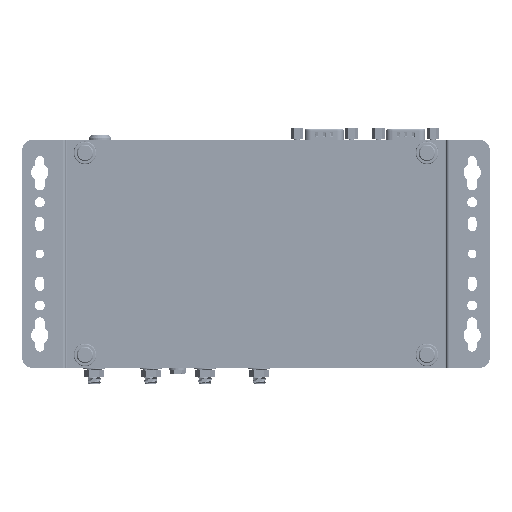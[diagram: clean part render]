
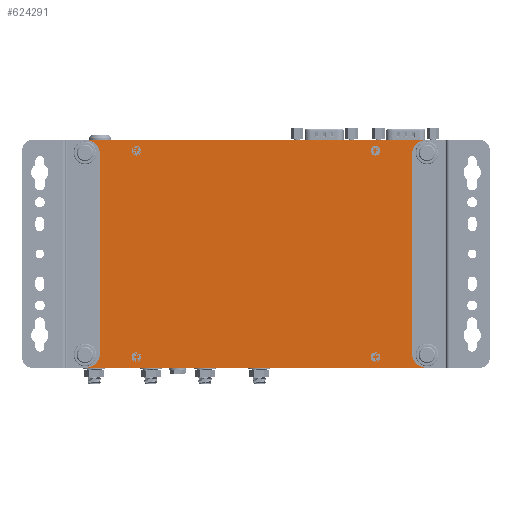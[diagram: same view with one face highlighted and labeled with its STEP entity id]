
A CAD part, front view. The second image highlights one B-rep face of the part: STEP entity #624291.
In plain terms, the highlighted planar face has unit normal (0, -1, 0).
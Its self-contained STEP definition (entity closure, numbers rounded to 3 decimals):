
#624132=CARTESIAN_POINT('',(-51.9,-31.,50.8));
#624133=DIRECTION('',(0.,1.,0.));
#624134=DIRECTION('',(-1.,0.,0.));
#624135=AXIS2_PLACEMENT_3D('',#624132,#624133,#624134);
#624137=DIRECTION('',(1.,0.,0.));
#624138=VECTOR('',#624137,172.8);
#624139=CARTESIAN_POINT('',(-51.9,-31.,51.9));
#624140=LINE('',#624139,#624138);
#624141=CARTESIAN_POINT('',(120.9,-31.,50.8));
#624142=DIRECTION('',(0.,1.,0.));
#624143=DIRECTION('',(0.,0.,1.));
#624144=AXIS2_PLACEMENT_3D('',#624141,#624142,#624143);
#624146=DIRECTION('',(0.,0.,-1.));
#624147=VECTOR('',#624146,102.8);
#624148=CARTESIAN_POINT('',(122.,-31.,50.8));
#624149=LINE('',#624148,#624147);
#624150=CARTESIAN_POINT('',(120.9,-31.,-52.));
#624151=DIRECTION('',(0.,1.,0.));
#624152=DIRECTION('',(1.,0.,0.));
#624153=AXIS2_PLACEMENT_3D('',#624150,#624151,#624152);
#624155=DIRECTION('',(-1.,0.,0.));
#624156=VECTOR('',#624155,172.8);
#624157=CARTESIAN_POINT('',(120.9,-31.,-53.1));
#624158=LINE('',#624157,#624156);
#624159=CARTESIAN_POINT('',(-51.9,-31.,-52.));
#624160=DIRECTION('',(0.,1.,0.));
#624161=DIRECTION('',(0.,0.,-1.));
#624162=AXIS2_PLACEMENT_3D('',#624159,#624160,#624161);
#624164=DIRECTION('',(0.,0.,1.));
#624165=VECTOR('',#624164,102.8);
#624166=CARTESIAN_POINT('',(-53.,-31.,-52.));
#624167=LINE('',#624166,#624165);
#624236=CARTESIAN_POINT('',(-53.,-31.,50.8));
#624237=CARTESIAN_POINT('',(-51.9,-31.,51.9));
#624238=VERTEX_POINT('',#624236);
#624239=VERTEX_POINT('',#624237);
#624240=CARTESIAN_POINT('',(120.9,-31.,51.9));
#624241=VERTEX_POINT('',#624240);
#624242=CARTESIAN_POINT('',(122.,-31.,50.8));
#624243=VERTEX_POINT('',#624242);
#624244=CARTESIAN_POINT('',(122.,-31.,-52.));
#624245=VERTEX_POINT('',#624244);
#624246=CARTESIAN_POINT('',(120.9,-31.,-53.1));
#624247=VERTEX_POINT('',#624246);
#624248=CARTESIAN_POINT('',(-51.9,-31.,-53.1));
#624249=VERTEX_POINT('',#624248);
#624250=CARTESIAN_POINT('',(-53.,-31.,-52.));
#624251=VERTEX_POINT('',#624250);
#624268=CARTESIAN_POINT('',(0.,-31.,0.));
#624269=DIRECTION('',(0.,-1.,0.));
#624270=DIRECTION('',(1.,0.,0.));
#624271=AXIS2_PLACEMENT_3D('',#624268,#624269,#624270);
#624272=PLANE('',#624271);
#624274=ORIENTED_EDGE('',*,*,#624273,.T.);
#624276=ORIENTED_EDGE('',*,*,#624275,.T.);
#624278=ORIENTED_EDGE('',*,*,#624277,.T.);
#624280=ORIENTED_EDGE('',*,*,#624279,.T.);
#624282=ORIENTED_EDGE('',*,*,#624281,.T.);
#624284=ORIENTED_EDGE('',*,*,#624283,.T.);
#624286=ORIENTED_EDGE('',*,*,#624285,.T.);
#624288=ORIENTED_EDGE('',*,*,#624287,.T.);
#624289=EDGE_LOOP('',(#624274,#624276,#624278,#624280,#624282,#624284,#624286,
#624288));
#624290=FACE_OUTER_BOUND('',#624289,.F.);
#624291=ADVANCED_FACE('',(#624290),#624272,.T.);
#624136=CIRCLE('',#624135,1.1);
#624145=CIRCLE('',#624144,1.1);
#624154=CIRCLE('',#624153,1.1);
#624163=CIRCLE('',#624162,1.1);
#624273=EDGE_CURVE('',#624238,#624239,#624136,.T.);
#624275=EDGE_CURVE('',#624239,#624241,#624140,.T.);
#624277=EDGE_CURVE('',#624241,#624243,#624145,.T.);
#624279=EDGE_CURVE('',#624243,#624245,#624149,.T.);
#624281=EDGE_CURVE('',#624245,#624247,#624154,.T.);
#624283=EDGE_CURVE('',#624247,#624249,#624158,.T.);
#624285=EDGE_CURVE('',#624249,#624251,#624163,.T.);
#624287=EDGE_CURVE('',#624251,#624238,#624167,.T.);
